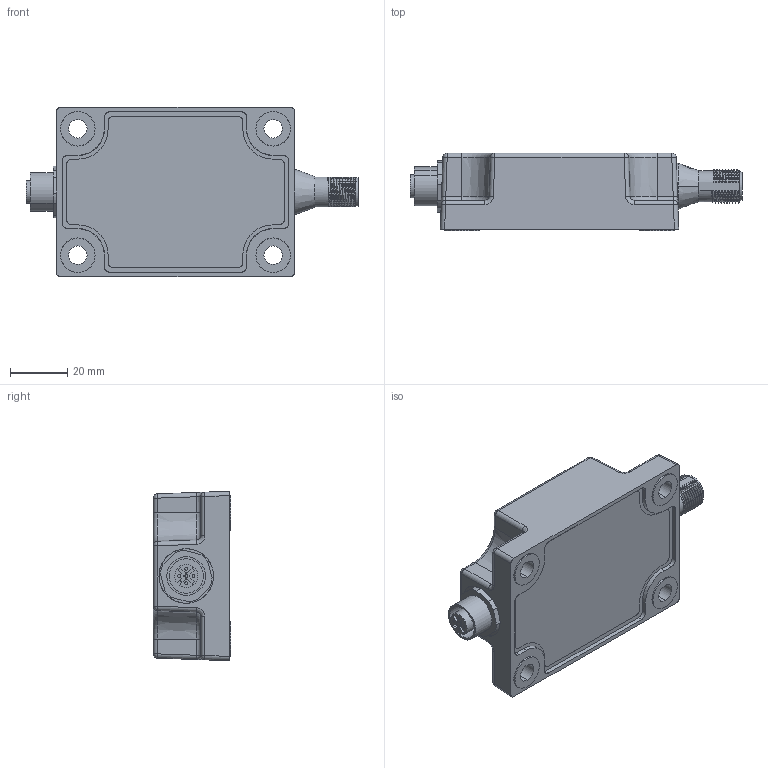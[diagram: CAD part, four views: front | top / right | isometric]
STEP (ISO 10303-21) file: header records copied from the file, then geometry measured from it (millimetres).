
FILE_DESCRIPTION (( 'STEP AP203' ), '1' );
FILE_NAME ('ACS-xxx-x-CA01-xK2-PN.STEP', '2014-04-09T09:37:35', ( '' ), ( '' ), 'SwSTEP 2.0', 'SolidWorks 2014', '' );
FILE_SCHEMA (( 'CONFIG_CONTROL_DESIGN' ));
Length unit declared in the file: millimetre
Products named in the file (1): ACS-xxx-x-CA01-xK2-PN
Bounding box: 115.65 x 27 x 59 mm (x, y, z)
Volume: 51884.2 mm3; surface area: 36360.4 mm2
Topology: 6 solids, 6 shells, 571 faces, 1522 edges, 990 vertices
Faces by surface type: cylinder 211, plane 210, bspline 69, cone 44, sphere 19, torus 18
Entity records: 31459 total; most frequent: CARTESIAN_POINT 18083, ORIENTED_EDGE 2972, DIRECTION 2554, EDGE_CURVE 1486, VERTEX_POINT 978, AXIS2_PLACEMENT_3D 909, LINE 736, VECTOR 736
